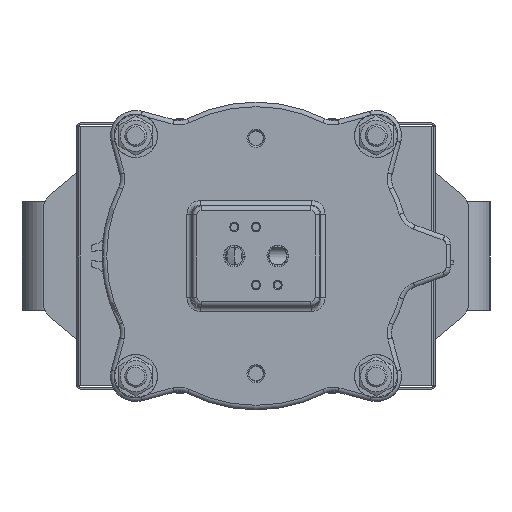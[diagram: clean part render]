
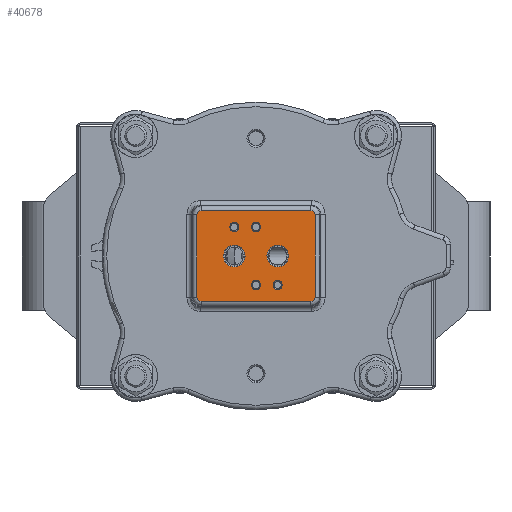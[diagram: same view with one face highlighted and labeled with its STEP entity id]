
A CAD part, left-side view. The second image highlights one B-rep face of the part: STEP entity #40678.
In plain terms, the highlighted planar face has unit normal (-1, 0, 0).
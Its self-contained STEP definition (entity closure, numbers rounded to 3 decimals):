
#457=ELLIPSE('',#44415,2.519,2.5);
#458=ELLIPSE('',#44419,2.519,2.5);
#459=ELLIPSE('',#44423,2.519,2.5);
#460=ELLIPSE('',#44426,2.519,2.5);
#2687=LINE('',#69949,#4879);
#2688=LINE('',#69982,#4880);
#2689=LINE('',#70014,#4881);
#2690=LINE('',#70046,#4882);
#4879=VECTOR('',#52752,10.);
#4880=VECTOR('',#52763,10.);
#4881=VECTOR('',#52772,10.);
#4882=VECTOR('',#52781,10.);
#7348=FACE_BOUND('',#11103,.T.);
#7349=FACE_BOUND('',#11104,.T.);
#7350=FACE_BOUND('',#11105,.T.);
#7351=FACE_BOUND('',#11106,.T.);
#7352=FACE_BOUND('',#11107,.T.);
#7353=FACE_BOUND('',#11108,.T.);
#8508=FACE_OUTER_BOUND('',#11102,.T.);
#11102=EDGE_LOOP('',(#31063,#31064,#31065,#31066,#31067,#31068,#31069,#31070));
#11103=EDGE_LOOP('',(#31071));
#11104=EDGE_LOOP('',(#31072));
#11105=EDGE_LOOP('',(#31073));
#11106=EDGE_LOOP('',(#31074));
#11107=EDGE_LOOP('',(#31075));
#11108=EDGE_LOOP('',(#31076));
#13974=CIRCLE('',#44448,6.);
#13977=CIRCLE('',#44452,6.);
#13987=CIRCLE('',#44470,2.5);
#13991=CIRCLE('',#44476,2.5);
#13995=CIRCLE('',#44482,2.5);
#13998=CIRCLE('',#44487,2.5);
#17413=VERTEX_POINT('',#69946);
#17414=VERTEX_POINT('',#69948);
#17415=VERTEX_POINT('',#69976);
#17416=VERTEX_POINT('',#69980);
#17417=VERTEX_POINT('',#70008);
#17418=VERTEX_POINT('',#70012);
#17419=VERTEX_POINT('',#70040);
#17420=VERTEX_POINT('',#70044);
#17441=VERTEX_POINT('',#70143);
#17444=VERTEX_POINT('',#70151);
#17454=VERTEX_POINT('',#70183);
#17458=VERTEX_POINT('',#70195);
#17462=VERTEX_POINT('',#70207);
#17464=VERTEX_POINT('',#70216);
#22301=EDGE_CURVE('',#17413,#17414,#2687,.T.);
#22304=EDGE_CURVE('',#17415,#17413,#457,.T.);
#22306=EDGE_CURVE('',#17416,#17415,#2688,.T.);
#22308=EDGE_CURVE('',#17417,#17416,#458,.T.);
#22310=EDGE_CURVE('',#17418,#17417,#2689,.T.);
#22312=EDGE_CURVE('',#17419,#17418,#459,.T.);
#22314=EDGE_CURVE('',#17420,#17419,#2690,.T.);
#22315=EDGE_CURVE('',#17414,#17420,#460,.T.);
#22339=EDGE_CURVE('',#17441,#17441,#13974,.T.);
#22343=EDGE_CURVE('',#17444,#17444,#13977,.T.);
#22357=EDGE_CURVE('',#17454,#17454,#13987,.T.);
#22363=EDGE_CURVE('',#17458,#17458,#13991,.T.);
#22369=EDGE_CURVE('',#17462,#17462,#13995,.T.);
#22373=EDGE_CURVE('',#17464,#17464,#13998,.T.);
#31063=ORIENTED_EDGE('',*,*,#22315,.F.);
#31064=ORIENTED_EDGE('',*,*,#22301,.F.);
#31065=ORIENTED_EDGE('',*,*,#22304,.F.);
#31066=ORIENTED_EDGE('',*,*,#22306,.F.);
#31067=ORIENTED_EDGE('',*,*,#22308,.F.);
#31068=ORIENTED_EDGE('',*,*,#22310,.F.);
#31069=ORIENTED_EDGE('',*,*,#22312,.F.);
#31070=ORIENTED_EDGE('',*,*,#22314,.F.);
#31071=ORIENTED_EDGE('',*,*,#22369,.F.);
#31072=ORIENTED_EDGE('',*,*,#22357,.F.);
#31073=ORIENTED_EDGE('',*,*,#22339,.F.);
#31074=ORIENTED_EDGE('',*,*,#22343,.F.);
#31075=ORIENTED_EDGE('',*,*,#22363,.F.);
#31076=ORIENTED_EDGE('',*,*,#22373,.F.);
#39167=PLANE('',#44486);
#40678=ADVANCED_FACE('',(#8508,#7348,#7349,#7350,#7351,#7352,#7353),#39167,
 .F.);
#44415=AXIS2_PLACEMENT_3D('',#69978,#52757,#52758);
#44419=AXIS2_PLACEMENT_3D('',#70010,#52766,#52767);
#44423=AXIS2_PLACEMENT_3D('',#70042,#52775,#52776);
#44426=AXIS2_PLACEMENT_3D('',#70072,#52782,#52783);
#44448=AXIS2_PLACEMENT_3D('',#70145,#52832,#52833);
#44452=AXIS2_PLACEMENT_3D('',#70153,#52841,#52842);
#44470=AXIS2_PLACEMENT_3D('',#70185,#52881,#52882);
#44476=AXIS2_PLACEMENT_3D('',#70197,#52895,#52896);
#44482=AXIS2_PLACEMENT_3D('',#70209,#52909,#52910);
#44486=AXIS2_PLACEMENT_3D('',#70215,#52918,#52919);
#44487=AXIS2_PLACEMENT_3D('',#70217,#52920,#52921);
#52752=DIRECTION('',(0.,0.,-1.));
#52757=DIRECTION('center_axis',(1.,0.,0.));
#52758=DIRECTION('ref_axis',(0.,-0.707,0.707));
#52763=DIRECTION('',(0.,-1.,0.));
#52766=DIRECTION('center_axis',(1.,0.,0.));
#52767=DIRECTION('ref_axis',(0.,0.707,0.707));
#52772=DIRECTION('',(0.,0.,1.));
#52775=DIRECTION('center_axis',(1.,0.,0.));
#52776=DIRECTION('ref_axis',(0.,0.707,-0.707));
#52781=DIRECTION('',(0.,1.,0.));
#52782=DIRECTION('center_axis',(1.,0.,0.));
#52783=DIRECTION('ref_axis',(0.,-0.707,-0.707));
#52832=DIRECTION('center_axis',(-1.,0.,0.));
#52833=DIRECTION('ref_axis',(0.,1.,0.));
#52841=DIRECTION('center_axis',(-1.,0.,0.));
#52842=DIRECTION('ref_axis',(0.,1.,0.));
#52881=DIRECTION('center_axis',(-1.,0.,0.));
#52882=DIRECTION('ref_axis',(0.,1.,0.));
#52895=DIRECTION('center_axis',(-1.,0.,0.));
#52896=DIRECTION('ref_axis',(0.,1.,0.));
#52909=DIRECTION('center_axis',(-1.,0.,0.));
#52910=DIRECTION('ref_axis',(0.,1.,0.));
#52918=DIRECTION('center_axis',(1.,0.,0.));
#52919=DIRECTION('ref_axis',(0.,1.,0.));
#52920=DIRECTION('center_axis',(-1.,0.,0.));
#52921=DIRECTION('ref_axis',(0.,1.,0.));
#69946=CARTESIAN_POINT('',(-990.5,-32.709,-9.281));
#69948=CARTESIAN_POINT('',(-990.5,-32.709,-54.719));
#69949=CARTESIAN_POINT('',(-990.5,-32.709,-45.75));
#69976=CARTESIAN_POINT('',(-990.5,-30.219,-6.791));
#69978=CARTESIAN_POINT('Origin',(-990.5,-30.2,-9.3));
#69980=CARTESIAN_POINT('',(-990.5,30.219,-6.791));
#69982=CARTESIAN_POINT('',(-990.5,-17.5,-6.791));
#70008=CARTESIAN_POINT('',(-990.5,32.709,-9.281));
#70010=CARTESIAN_POINT('Origin',(-990.5,30.2,-9.3));
#70012=CARTESIAN_POINT('',(-990.5,32.709,-54.719));
#70014=CARTESIAN_POINT('',(-990.5,32.709,-18.25));
#70040=CARTESIAN_POINT('',(-990.5,30.219,-57.209));
#70042=CARTESIAN_POINT('Origin',(-990.5,30.2,-54.7));
#70044=CARTESIAN_POINT('',(-990.5,-30.219,-57.209));
#70046=CARTESIAN_POINT('',(-990.5,17.5,-57.209));
#70072=CARTESIAN_POINT('Origin',(-990.5,-30.2,-54.7));
#70143=CARTESIAN_POINT('',(-990.5,-18.,-32.));
#70145=CARTESIAN_POINT('Origin',(-990.5,-12.,-32.));
#70151=CARTESIAN_POINT('',(-990.5,6.,-32.));
#70153=CARTESIAN_POINT('Origin',(-990.5,12.,-32.));
#70183=CARTESIAN_POINT('',(-990.5,-14.5,-48.));
#70185=CARTESIAN_POINT('Origin',(-990.5,-12.,-48.));
#70195=CARTESIAN_POINT('',(-990.5,-2.5,-48.));
#70197=CARTESIAN_POINT('Origin',(-990.5,0.,
-48.));
#70207=CARTESIAN_POINT('',(-990.5,-2.5,-16.));
#70209=CARTESIAN_POINT('Origin',(-990.5,0.,
-16.));
#70215=CARTESIAN_POINT('Origin',(-990.5,0.,
-32.));
#70216=CARTESIAN_POINT('',(-990.5,9.5,-16.));
#70217=CARTESIAN_POINT('Origin',(-990.5,12.,-16.));
